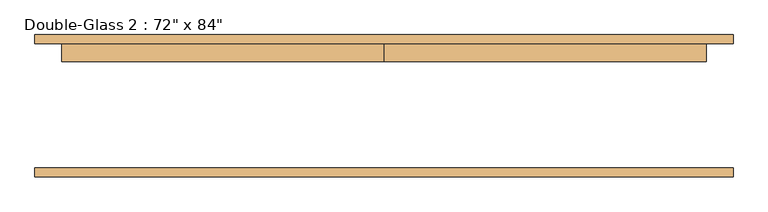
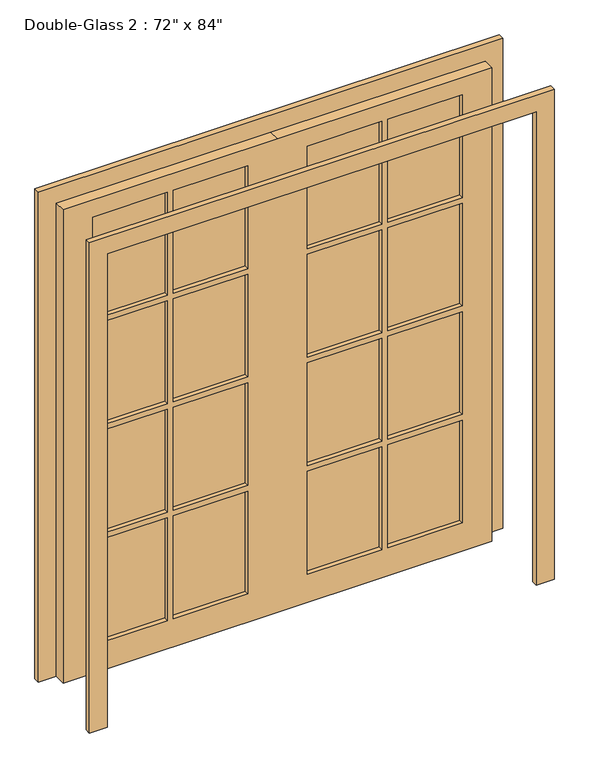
"""IFC4 building model written with IfcOpenShell, lengths in millimetres: door geometry."""

from ifc_helpers import new_model, si_unit, frame, origin, place, context, project, spatial, polyline, outline, extrude, source, transform, mapped, element, save


def door_0a477ef8(model_context):
    return source(origin(), model_context, "Body", "SweptSolid", [
        extrude(outline(polyline([(469.9, 157.1625), (787.4, 157.1625), (787.4, 144.4625), (469.9, 144.4625), (469.9, 157.1625)])), frame((0.0, 0.0, 1593.85), z_axis=(0.0, 0.0, 1.0), x_axis=(1.0, 0.0, 0.0)), (0.0, 0.0, 1.0), 463.55),
        extrude(outline(polyline([(127.0, 157.1625), (444.5, 157.1625), (444.5, 144.4625), (127.0, 144.4625), (127.0, 157.1625)])), frame((0.0, 0.0, 1593.85), z_axis=(0.0, 0.0, 1.0), x_axis=(1.0, 0.0, 0.0)), (0.0, 0.0, 1.0), 463.55),
        extrude(outline(polyline([(-444.5, 157.1625), (-127.0, 157.1625), (-127.0, 144.4625), (-444.5, 144.4625), (-444.5, 157.1625)])), frame((0.0, 0.0, 1593.85), z_axis=(0.0, 0.0, 1.0), x_axis=(1.0, 0.0, 0.0)), (0.0, 0.0, 1.0), 463.55),
        extrude(outline(polyline([(-787.4, 157.1625), (-469.9, 157.1625), (-469.9, 144.4625), (-787.4, 144.4625), (-787.4, 157.1625)])), frame((0.0, 0.0, 1593.85), z_axis=(0.0, 0.0, 1.0), x_axis=(1.0, 0.0, 0.0)), (0.0, 0.0, 1.0), 463.55),
        extrude(outline(polyline([(-787.4, 157.1625), (-469.9, 157.1625), (-469.9, 144.4625), (-787.4, 144.4625), (-787.4, 157.1625)])), frame((0.0, 0.0, 1104.9), z_axis=(0.0, 0.0, 1.0), x_axis=(1.0, 0.0, 0.0)), (0.0, 0.0, 1.0), 463.55),
        extrude(outline(polyline([(-444.5, 157.1625), (-127.0, 157.1625), (-127.0, 144.4625), (-444.5, 144.4625), (-444.5, 157.1625)])), frame((0.0, 0.0, 1104.9), z_axis=(0.0, 0.0, 1.0), x_axis=(1.0, 0.0, 0.0)), (0.0, 0.0, 1.0), 463.55),
        extrude(outline(polyline([(127.0, 157.1625), (444.5, 157.1625), (444.5, 144.4625), (127.0, 144.4625), (127.0, 157.1625)])), frame((0.0, 0.0, 1104.9), z_axis=(0.0, 0.0, 1.0), x_axis=(1.0, 0.0, 0.0)), (0.0, 0.0, 1.0), 463.55),
        extrude(outline(polyline([(469.9, 157.1625), (787.4, 157.1625), (787.4, 144.4625), (469.9, 144.4625), (469.9, 157.1625)])), frame((0.0, 0.0, 1104.9), z_axis=(0.0, 0.0, 1.0), x_axis=(1.0, 0.0, 0.0)), (0.0, 0.0, 1.0), 463.55),
        extrude(outline(polyline([(469.9, 157.1625), (787.4, 157.1625), (787.4, 144.4625), (469.9, 144.4625), (469.9, 157.1625)])), frame((0.0, 0.0, 615.95), z_axis=(0.0, 0.0, 1.0), x_axis=(1.0, 0.0, 0.0)), (0.0, 0.0, 1.0), 463.55),
        extrude(outline(polyline([(127.0, 157.1625), (444.5, 157.1625), (444.5, 144.4625), (127.0, 144.4625), (127.0, 157.1625)])), frame((0.0, 0.0, 615.95), z_axis=(0.0, 0.0, 1.0), x_axis=(1.0, 0.0, 0.0)), (0.0, 0.0, 1.0), 463.55),
        extrude(outline(polyline([(-444.5, 157.1625), (-127.0, 157.1625), (-127.0, 144.4625), (-444.5, 144.4625), (-444.5, 157.1625)])), frame((0.0, 0.0, 615.95), z_axis=(0.0, 0.0, 1.0), x_axis=(1.0, 0.0, 0.0)), (0.0, 0.0, 1.0), 463.55),
        extrude(outline(polyline([(-787.4, 157.1625), (-469.9, 157.1625), (-469.9, 144.4625), (-787.4, 144.4625), (-787.4, 157.1625)])), frame((0.0, 0.0, 615.95), z_axis=(0.0, 0.0, 1.0), x_axis=(1.0, 0.0, 0.0)), (0.0, 0.0, 1.0), 463.55),
        extrude(outline(polyline([(469.9, 157.1625), (787.4, 157.1625), (787.4, 144.4625), (469.9, 144.4625), (469.9, 157.1625)])), frame((0.0, 0.0, 127.0), z_axis=(0.0, 0.0, 1.0), x_axis=(1.0, 0.0, 0.0)), (0.0, 0.0, 1.0), 463.55),
        extrude(outline(polyline([(127.0, 157.1625), (444.5, 157.1625), (444.5, 144.4625), (127.0, 144.4625), (127.0, 157.1625)])), frame((0.0, 0.0, 127.0), z_axis=(0.0, 0.0, 1.0), x_axis=(1.0, 0.0, 0.0)), (0.0, 0.0, 1.0), 463.55),
        extrude(outline(polyline([(-444.5, 157.1625), (-127.0, 157.1625), (-127.0, 144.4625), (-444.5, 144.4625), (-444.5, 157.1625)])), frame((0.0, 0.0, 127.0), z_axis=(0.0, 0.0, 1.0), x_axis=(1.0, 0.0, 0.0)), (0.0, 0.0, 1.0), 463.55),
        extrude(outline(polyline([(-787.4, 157.1625), (-469.9, 157.1625), (-469.9, 144.4625), (-787.4, 144.4625), (-787.4, 157.1625)])), frame((0.0, 0.0, 127.0), z_axis=(0.0, 0.0, 1.0), x_axis=(1.0, 0.0, 0.0)), (0.0, 0.0, 1.0), 463.55),
        extrude(outline(polyline([(2133.6, 0.0), (2133.6, -914.4), (0.0, -914.4), (0.0, 0.0), (0.0, 914.4), (2133.6, 914.4), (2133.6, 0.0)]), holes=[polyline([(2057.4, 469.9), (2057.4, 787.4), (1593.85, 787.4), (1593.85, 469.9), (2057.4, 469.9)]), polyline([(2057.4, 127.0), (2057.4, 444.5), (1593.85, 444.5), (1593.85, 127.0), (2057.4, 127.0)]), polyline([(1568.45, 469.9), (1568.45, 787.4), (1104.9, 787.4), (1104.9, 469.9), (1568.45, 469.9)]), polyline([(1568.45, 127.0), (1568.45, 444.5), (1104.9, 444.5), (1104.9, 127.0), (1568.45, 127.0)]), polyline([(1079.5, 469.9), (1079.5, 787.4), (615.95, 787.4), (615.95, 469.9), (1079.5, 469.9)]), polyline([(1079.5, 127.0), (1079.5, 444.5), (615.95, 444.5), (615.95, 127.0), (1079.5, 127.0)]), polyline([(590.55, 469.9), (590.55, 787.4), (127.0, 787.4), (127.0, 469.9), (590.55, 469.9)]), polyline([(590.55, 127.0), (590.55, 444.5), (127.0, 444.5), (127.0, 127.0), (590.55, 127.0)]), polyline([(2057.4, -444.5), (2057.4, -127.0), (1593.85, -127.0), (1593.85, -444.5), (2057.4, -444.5)]), polyline([(1568.45, -444.5), (1568.45, -127.0), (1104.9, -127.0), (1104.9, -444.5), (1568.45, -444.5)]), polyline([(1568.45, -469.9), (1104.9, -469.9), (1104.9, -787.4), (1568.45, -787.4), (1568.45, -469.9)]), polyline([(1079.5, -444.5), (1079.5, -127.0), (615.95, -127.0), (615.95, -444.5), (1079.5, -444.5)]), polyline([(1079.5, -469.9), (615.95, -469.9), (615.95, -787.4), (1079.5, -787.4), (1079.5, -469.9)]), polyline([(590.55, -444.5), (590.55, -127.0), (127.0, -127.0), (127.0, -444.5), (590.55, -444.5)]), polyline([(590.55, -787.4), (590.55, -469.9), (127.0, -469.9), (127.0, -787.4), (590.55, -787.4)]), polyline([(1593.85, -469.9), (1593.85, -787.4), (2057.4, -787.4), (2057.4, -469.9), (1593.85, -469.9)])]), frame((0.0, 125.4125, 0.0), z_axis=(0.0, 1.0, 0.0), x_axis=(0.0, 0.0, 1.0)), (0.0, 0.0, 1.0), 50.8),
        extrude(outline(polyline([(2133.6, -914.4), (2133.6, 914.4), (0.0, 914.4), (0.0, 990.6), (2209.8, 990.6), (2209.8, -990.6), (0.0, -990.6), (0.0, -914.4), (2133.6, -914.4)])), frame((0.0, -201.6125, 0.0), z_axis=(0.0, 1.0, 0.0), x_axis=(0.0, 0.0, 1.0)), (0.0, 0.0, 1.0), 25.4),
        extrude(outline(polyline([(2133.6, -914.4), (2133.6, 914.4), (0.0, 914.4), (0.0, 990.6), (2209.8, 990.6), (2209.8, -990.6), (0.0, -990.6), (0.0, -914.4), (2133.6, -914.4)])), frame((0.0, 176.2125, 0.0), z_axis=(0.0, 1.0, 0.0), x_axis=(0.0, 0.0, 1.0)), (0.0, 0.0, 1.0), 25.4),
    ])


if __name__ == "__main__":
    model = new_model("IFC4")
    model_context = context("Model", 3, world=origin())
    ifc_project = project(units=[si_unit("LENGTHUNIT", "METRE", prefix="MILLI")], contexts=[model_context])
    site = spatial("IfcSite", under=ifc_project)
    building = spatial("IfcBuilding", under=site)
    placement = place(None, origin())
    door_shape = door_0a477ef8(model_context)
    element("IfcDoor", 1, ObjectType="Double-Glass 2 : 72\" x 84\"", at=placement, inside=building, context=model_context, shape_type="MappedRepresentation", body=[
        mapped(door_shape, transform((0.0, 0.0, 0.0), x_axis=(1.0, 0.0, 0.0), y_axis=(0.0, 1.0, 0.0), z_axis=(0.0, 0.0, 1.0))),
    ])
    save(model, "model.ifc")
